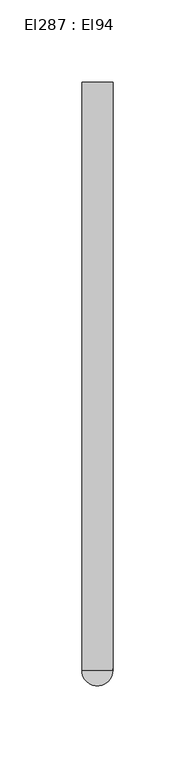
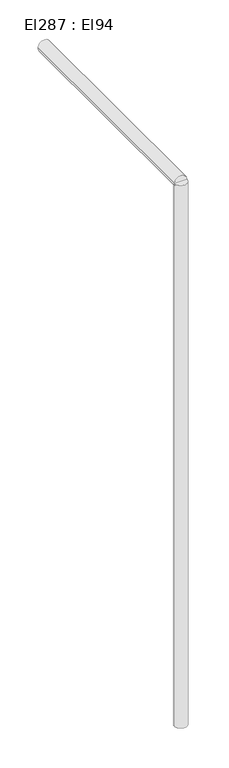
"""IFC4 building model written with IfcOpenShell, lengths in millimetres: cable carrier segment geometry, El287 : El94."""

from ifc_helpers import new_model, si_unit, point, frame, frame_2d, origin, place, context, project, spatial, circle_curve, trimmed, segment, composite_curve, outline, extrude, source, transform, mapped, element, save


def el287_el94_d5e720ac(model_context):
    return source(origin(), model_context, "Body", "SweptSolid", [
        extrude(outline(composite_curve([segment(trimmed(circle_curve(frame_2d((19844.4746511, 9884.7611745)), 9.5), [point((19834.9746511, 9884.7611745))], [point((19853.9746511, 9884.7611745))], False, "CARTESIAN"), True, "CONTINUOUS"), segment(trimmed(circle_curve(frame_2d((19844.4746511, 9884.7611745)), 9.5), [point((19853.9746511, 9884.7611745))], [point((19834.9746511, 9884.7611745))], False, "CARTESIAN"), True, "CONTINUOUS")], self_intersect=False)), frame((0.0, 0.0, 1830.0), z_axis=(0.0, 0.0, 1.0), x_axis=(1.0, 0.0, 0.0)), (0.0, 0.0, 1.0), 870.0),
        extrude(outline(composite_curve([segment(trimmed(circle_curve(frame_2d((2700.0, 19844.4746511)), 9.5), [point((2700.0, 19834.9746511))], [point((2700.0, 19853.9746511))], False, "CARTESIAN"), True, "CONTINUOUS"), segment(trimmed(circle_curve(frame_2d((2700.0, 19844.4746511)), 9.5), [point((2700.0, 19853.9746511))], [point((2700.0, 19834.9746511))], False, "CARTESIAN"), True, "CONTINUOUS")], self_intersect=False)), frame((0.0, 9884.7611745, 0.0), z_axis=(0.0, 1.0, 0.0), x_axis=(0.0, 0.0, 1.0)), (0.0, 0.0, 1.0), 358.602),
    ])


if __name__ == "__main__":
    model = new_model("IFC4")
    model_context = context("Model", 3, world=origin())
    ifc_project = project(units=[si_unit("LENGTHUNIT", "METRE", prefix="MILLI")], contexts=[model_context])
    site = spatial("IfcSite", under=ifc_project)
    building = spatial("IfcBuilding", under=site)
    placement = place(None, origin())
    el287_el94_shape = el287_el94_d5e720ac(model_context)
    element("IfcCableCarrierSegment", 1, ObjectType="El287 : El94", at=placement, inside=building, context=model_context, shape_type="MappedRepresentation", body=[
        mapped(el287_el94_shape, transform((0.0, 0.0, 0.0), x_axis=(1.0, 0.0, 0.0), y_axis=(0.0, 1.0, 0.0), z_axis=(0.0, 0.0, 1.0))),
    ])
    save(model, "model.ifc")
